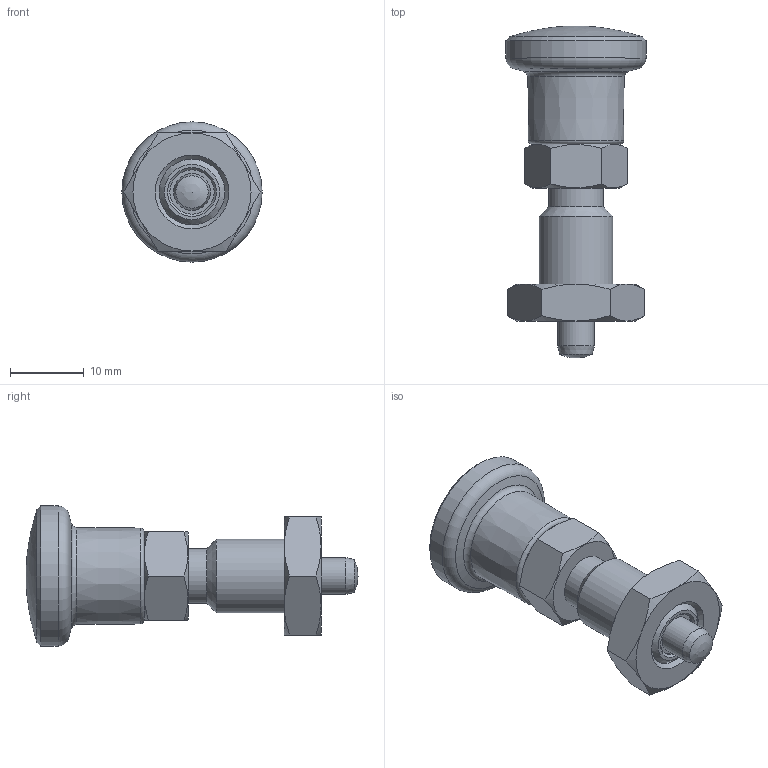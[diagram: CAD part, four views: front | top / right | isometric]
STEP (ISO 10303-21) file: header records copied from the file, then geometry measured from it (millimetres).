
FILE_DESCRIPTION( ( 'STEP AP203' ), '1' );
FILE_NAME( 'C:/Temp/Ganter_Step_05_03_2020/data/3_1/gn817/gn817_ni-rastbolzen_rot/Stainless Steel-Indexing plunger GN 817-5-5-BK-NI-RT (deactivated-0).stp', '2020-03-12T09:00:26', ( 'License CC BY-ND 4.0' ), ( 'CADENAS' ), ' ', 'PARTsolutions', ' ' );
FILE_SCHEMA( ( 'CONFIG_CONTROL_DESIGN' ) );
Length unit declared in the file: millimetre
Products named in the file (5): Stainless Steel-Indexing plunger GN 817-5-5-BK-NI-RT (deactivated-0); _Stainless steel-Indexing plunger GN 817-5-5-BK-NI-RT (deactivated-0)-d; _Stainless steel-Indexing plunger GN 817-5-5-B-NI-RT-2; _Stainless Steel Indexing plunger GN 817-5-5-B-NI-RT-1; _Stainless steel-Indexing plunger GN 817-5-5-BK-NI-RT (deactivated-0)-3
Assembly tree (4 placements, depth 2):
  Stainless Steel-Indexing plunger GN 817-5-5-BK-NI-RT (deactivated-0)
    _Stainless steel-Indexing plunger GN 817-5-5-BK-NI-RT (deactivated-0)-d
    _Stainless steel-Indexing plunger GN 817-5-5-B-NI-RT-2
    _Stainless Steel Indexing plunger GN 817-5-5-B-NI-RT-1
    _Stainless steel-Indexing plunger GN 817-5-5-BK-NI-RT (deactivated-0)-3
Bounding box: 19 x 45 x 19 mm (x, y, z)
Volume: 5579.9 mm3; surface area: 3795 mm2
Topology: 3 solids, 3 shells, 61 faces, 127 edges, 76 vertices
Faces by surface type: cone 24, plane 21, cylinder 9, torus 5, bspline 1, sphere 1
Full cylindrical faces by diameter (mm): 4 x2, 5 x1, 6 x2, 7.4 x1, 8.917 x1, 10 x1, 19 x1
Entity records: 1791 total; most frequent: CARTESIAN_POINT 504, DIRECTION 234, ORIENTED_EDGE 188, AXIS2_PLACEMENT_3D 111, EDGE_LOOP 96, EDGE_CURVE 94, FACE_OUTER_BOUND 75, VERTEX_POINT 72
